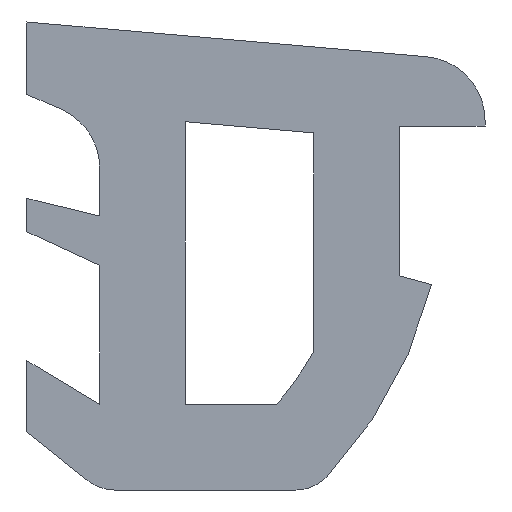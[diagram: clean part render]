
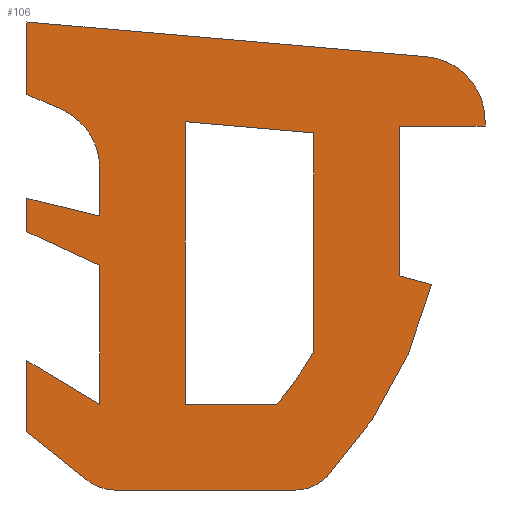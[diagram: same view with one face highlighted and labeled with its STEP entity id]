
A CAD part, left-side view. The second image highlights one B-rep face of the part: STEP entity #106.
In plain terms, the highlighted planar face has unit normal (-1, 0, 0).
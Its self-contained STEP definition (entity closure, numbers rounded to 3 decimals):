
#106=ADVANCED_FACE('',(#207,#208),#209,.T.);
#207=FACE_OUTER_BOUND('',#300,.T.);
#208=FACE_BOUND('',#301,.T.);
#209=PLANE('',#302);
#300=EDGE_LOOP('',(#543,#544,#545,#546,#547,#548,#549,#550,#551,#552,#553,#554,#555,#556,#557,#558,#559,#560,#561,#562,#563));
#301=EDGE_LOOP('',(#564,#565,#566,#567,#568));
#302=AXIS2_PLACEMENT_3D('',#569,#570,#571);
#543=ORIENTED_EDGE('',*,*,#670,.T.);
#544=ORIENTED_EDGE('',*,*,#580,.T.);
#545=ORIENTED_EDGE('',*,*,#668,.T.);
#546=ORIENTED_EDGE('',*,*,#665,.T.);
#547=ORIENTED_EDGE('',*,*,#590,.T.);
#548=ORIENTED_EDGE('',*,*,#663,.T.);
#549=ORIENTED_EDGE('',*,*,#672,.T.);
#550=ORIENTED_EDGE('',*,*,#624,.T.);
#551=ORIENTED_EDGE('',*,*,#640,.T.);
#552=ORIENTED_EDGE('',*,*,#653,.T.);
#553=ORIENTED_EDGE('',*,*,#674,.T.);
#554=ORIENTED_EDGE('',*,*,#617,.T.);
#555=ORIENTED_EDGE('',*,*,#621,.T.);
#556=ORIENTED_EDGE('',*,*,#627,.T.);
#557=ORIENTED_EDGE('',*,*,#585,.T.);
#558=ORIENTED_EDGE('',*,*,#637,.T.);
#559=ORIENTED_EDGE('',*,*,#657,.T.);
#560=ORIENTED_EDGE('',*,*,#646,.T.);
#561=ORIENTED_EDGE('',*,*,#575,.T.);
#562=ORIENTED_EDGE('',*,*,#630,.T.);
#563=ORIENTED_EDGE('',*,*,#660,.T.);
#564=ORIENTED_EDGE('',*,*,#649,.T.);
#565=ORIENTED_EDGE('',*,*,#643,.T.);
#566=ORIENTED_EDGE('',*,*,#676,.T.);
#567=ORIENTED_EDGE('',*,*,#633,.T.);
#568=ORIENTED_EDGE('',*,*,#655,.T.);
#569=CARTESIAN_POINT('',(0.,8.96,-1.32));
#570=DIRECTION('',(-1.0,0.0,0.0));
#571=DIRECTION('',(0.0,-1.0,0.0));
#575=EDGE_CURVE('',#684,#682,#685,.T.);
#580=EDGE_CURVE('',#693,#691,#694,.T.);
#585=EDGE_CURVE('',#702,#700,#703,.T.);
#590=EDGE_CURVE('',#711,#709,#712,.T.);
#617=EDGE_CURVE('',#758,#756,#759,.T.);
#621=EDGE_CURVE('',#756,#762,#764,.T.);
#624=EDGE_CURVE('',#768,#766,#769,.T.);
#627=EDGE_CURVE('',#762,#702,#772,.T.);
#630=EDGE_CURVE('',#682,#774,#776,.T.);
#633=EDGE_CURVE('',#780,#778,#781,.T.);
#637=EDGE_CURVE('',#700,#784,#786,.T.);
#640=EDGE_CURVE('',#766,#788,#790,.T.);
#643=EDGE_CURVE('',#794,#792,#795,.T.);
#646=EDGE_CURVE('',#798,#684,#799,.T.);
#649=EDGE_CURVE('',#802,#794,#803,.T.);
#653=EDGE_CURVE('',#788,#806,#808,.T.);
#655=EDGE_CURVE('',#778,#802,#810,.T.);
#657=EDGE_CURVE('',#784,#798,#812,.T.);
#660=EDGE_CURVE('',#774,#814,#816,.T.);
#663=EDGE_CURVE('',#709,#818,#820,.T.);
#665=EDGE_CURVE('',#822,#711,#823,.T.);
#668=EDGE_CURVE('',#691,#822,#826,.T.);
#670=EDGE_CURVE('',#814,#693,#828,.T.);
#672=EDGE_CURVE('',#818,#768,#830,.T.);
#674=EDGE_CURVE('',#806,#758,#832,.T.);
#676=EDGE_CURVE('',#792,#780,#834,.T.);
#682=VERTEX_POINT('',#840);
#684=VERTEX_POINT('',#843);
#685=CIRCLE('',#844,1.);
#691=VERTEX_POINT('',#852);
#693=VERTEX_POINT('',#855);
#694=LINE('',#856,#857);
#700=VERTEX_POINT('',#865);
#702=VERTEX_POINT('',#868);
#703=LINE('',#869,#870);
#709=VERTEX_POINT('',#878);
#711=VERTEX_POINT('',#881);
#712=LINE('',#882,#883);
#756=VERTEX_POINT('',#945);
#758=VERTEX_POINT('',#948);
#759=LINE('',#949,#950);
#762=VERTEX_POINT('',#954);
#764=LINE('',#957,#958);
#766=VERTEX_POINT('',#960);
#768=VERTEX_POINT('',#963);
#769=LINE('',#964,#965);
#772=LINE('',#969,#970);
#774=VERTEX_POINT('',#972);
#776=LINE('',#975,#976);
#778=VERTEX_POINT('',#978);
#780=VERTEX_POINT('',#981);
#781=LINE('',#982,#983);
#784=VERTEX_POINT('',#987);
#786=LINE('',#990,#991);
#788=VERTEX_POINT('',#993);
#790=LINE('',#996,#997);
#792=VERTEX_POINT('',#999);
#794=VERTEX_POINT('',#1002);
#795=CIRCLE('',#1003,8.);
#798=VERTEX_POINT('',#1007);
#799=LINE('',#1008,#1009);
#802=VERTEX_POINT('',#1013);
#803=LINE('',#1014,#1015);
#806=VERTEX_POINT('',#1019);
#808=CIRCLE('',#1022,1.5);
#810=LINE('',#1024,#1025);
#812=LINE('',#1027,#1028);
#814=VERTEX_POINT('',#1030);
#816=CIRCLE('',#1033,1.);
#818=VERTEX_POINT('',#1035);
#820=CIRCLE('',#1038,1.5);
#822=VERTEX_POINT('',#1040);
#823=LINE('',#1041,#1042);
#826=LINE('',#1046,#1047);
#828=CIRCLE('',#1049,10.0);
#830=LINE('',#1051,#1052);
#832=LINE('',#1054,#1055);
#834=LINE('',#1057,#1058);
#840=CARTESIAN_POINT('',(0.,6.649,-8.5));
#843=CARTESIAN_POINT('',(0.,7.274,-8.281));
#844=AXIS2_PLACEMENT_3D('',#1064,#1065,#1066);
#852=CARTESIAN_POINT('',(0.,0.,-3.5));
#855=CARTESIAN_POINT('',(0.,-0.752,-3.701));
#856=CARTESIAN_POINT('',(0.,-0.752,-3.701));
#857=VECTOR('',#1070,1.0);
#865=CARTESIAN_POINT('',(0.,7.,-6.5));
#868=CARTESIAN_POINT('',(0.,7.,-3.254));
#869=CARTESIAN_POINT('',(0.,7.,-3.254));
#870=VECTOR('',#1074,1.0);
#878=CARTESIAN_POINT('',(0.,-2.,0.125));
#881=CARTESIAN_POINT('',(0.,-2.,0.));
#882=CARTESIAN_POINT('',(0.,-2.,0.));
#883=VECTOR('',#1078,1.0);
#945=CARTESIAN_POINT('',(0.,8.7,-1.692));
#948=CARTESIAN_POINT('',(0.,7.,-2.1));
#949=CARTESIAN_POINT('',(0.,7.,-2.1));
#950=VECTOR('',#1113,1.0);
#954=CARTESIAN_POINT('',(0.,8.7,-2.469));
#957=CARTESIAN_POINT('',(0.,8.7,-1.692));
#958=VECTOR('',#1116,1.0);
#960=CARTESIAN_POINT('',(0.,8.7,0.739));
#963=CARTESIAN_POINT('',(0.,8.7,2.43));
#964=CARTESIAN_POINT('',(0.,8.7,2.43));
#965=VECTOR('',#1118,1.0);
#969=CARTESIAN_POINT('',(0.,8.7,-2.469));
#970=VECTOR('',#1120,1.0);
#972=CARTESIAN_POINT('',(0.,2.418,-8.5));
#975=CARTESIAN_POINT('',(0.,6.649,-8.5));
#976=VECTOR('',#1122,1.0);
#978=CARTESIAN_POINT('',(0.,5.,0.101));
#981=CARTESIAN_POINT('',(0.,5.,-6.5));
#982=CARTESIAN_POINT('',(0.,5.,-6.5));
#983=VECTOR('',#1124,1.0);
#987=CARTESIAN_POINT('',(0.,8.7,-5.48));
#990=CARTESIAN_POINT('',(0.,7.,-6.5));
#991=VECTOR('',#1127,1.0);
#993=CARTESIAN_POINT('',(0.,7.902,0.392));
#996=CARTESIAN_POINT('',(0.,8.7,0.739));
#997=VECTOR('',#1129,1.0);
#999=CARTESIAN_POINT('',(0.,2.864,-6.5));
#1002=CARTESIAN_POINT('',(0.,2.,-5.264));
#1003=AXIS2_PLACEMENT_3D('',#1131,#1132,#1133);
#1007=CARTESIAN_POINT('',(0.,8.7,-7.14));
#1008=CARTESIAN_POINT('',(0.,8.7,-7.14));
#1009=VECTOR('',#1135,1.0);
#1013=CARTESIAN_POINT('',(0.,2.,-0.16));
#1014=CARTESIAN_POINT('',(0.,2.,-0.16));
#1015=VECTOR('',#1137,1.0);
#1019=CARTESIAN_POINT('',(0.,7.,-0.983));
#1022=AXIS2_PLACEMENT_3D('',#1140,#1141,#1142);
#1024=CARTESIAN_POINT('',(0.,5.,0.101));
#1025=VECTOR('',#1143,1.0);
#1027=CARTESIAN_POINT('',(0.,8.7,-5.48));
#1028=VECTOR('',#1144,1.0);
#1030=CARTESIAN_POINT('',(0.,1.691,-8.187));
#1033=AXIS2_PLACEMENT_3D('',#1146,#1147,#1148);
#1035=CARTESIAN_POINT('',(0.,-0.63,1.619));
#1038=AXIS2_PLACEMENT_3D('',#1150,#1151,#1152);
#1040=CARTESIAN_POINT('',(0.,0.,0.));
#1041=CARTESIAN_POINT('',(0.,0.,0.));
#1042=VECTOR('',#1153,1.0);
#1046=CARTESIAN_POINT('',(0.,0.,-3.5));
#1047=VECTOR('',#1155,1.0);
#1049=AXIS2_PLACEMENT_3D('',#1156,#1157,#1158);
#1051=CARTESIAN_POINT('',(0.,-0.63,1.619));
#1052=VECTOR('',#1159,1.0);
#1054=CARTESIAN_POINT('',(0.,7.,-0.983));
#1055=VECTOR('',#1160,1.0);
#1057=CARTESIAN_POINT('',(0.,2.864,-6.5));
#1058=VECTOR('',#1161,1.0);
#1064=CARTESIAN_POINT('',(0.,6.649,-7.5));
#1065=DIRECTION('',(-1.0,0.0,0.0));
#1066=DIRECTION('',(0.0,-1.0,0.0));
#1070=DIRECTION('',(0.0,0.966,0.259));
#1074=DIRECTION('',(0.0,0.0,-1.0));
#1078=DIRECTION('',(0.0,0.0,1.0));
#1113=DIRECTION('',(0.0,0.972,0.233));
#1116=DIRECTION('',(0.0,0.0,-1.0));
#1118=DIRECTION('',(0.0,0.0,-1.0));
#1120=DIRECTION('',(0.0,-0.908,-0.419));
#1122=DIRECTION('',(0.0,-1.0,0.0));
#1124=DIRECTION('',(0.0,0.0,1.0));
#1127=DIRECTION('',(0.0,0.857,0.514));
#1129=DIRECTION('',(0.0,-0.917,-0.399));
#1131=CARTESIAN_POINT('',(0.,8.96,-1.32));
#1132=DIRECTION('',(1.0,0.0,0.0));
#1133=DIRECTION('',(0.0,1.0,0.0));
#1135=DIRECTION('',(0.0,-0.781,-0.625));
#1137=DIRECTION('',(0.0,0.,-1.0));
#1140=CARTESIAN_POINT('',(0.,8.5,-0.983));
#1141=DIRECTION('',(1.0,0.0,0.0));
#1142=DIRECTION('',(0.0,1.0,0.0));
#1143=DIRECTION('',(0.0,-0.996,-0.087));
#1144=DIRECTION('',(0.0,0.0,-1.0));
#1146=CARTESIAN_POINT('',(0.,2.418,-7.5));
#1147=DIRECTION('',(-1.0,0.0,0.0));
#1148=DIRECTION('',(0.0,-1.0,0.0));
#1150=CARTESIAN_POINT('',(0.,-0.5,0.125));
#1151=DIRECTION('',(-1.0,0.0,0.0));
#1152=DIRECTION('',(0.0,-1.0,0.0));
#1153=DIRECTION('',(0.0,-1.0,0.0));
#1155=DIRECTION('',(0.0,0.0,1.0));
#1156=CARTESIAN_POINT('',(0.,8.96,-1.32));
#1157=DIRECTION('',(-1.0,0.0,0.0));
#1158=DIRECTION('',(0.0,-1.0,0.0));
#1159=DIRECTION('',(0.0,0.996,0.087));
#1160=DIRECTION('',(0.0,0.0,-1.0));
#1161=DIRECTION('',(0.0,1.0,0.));
